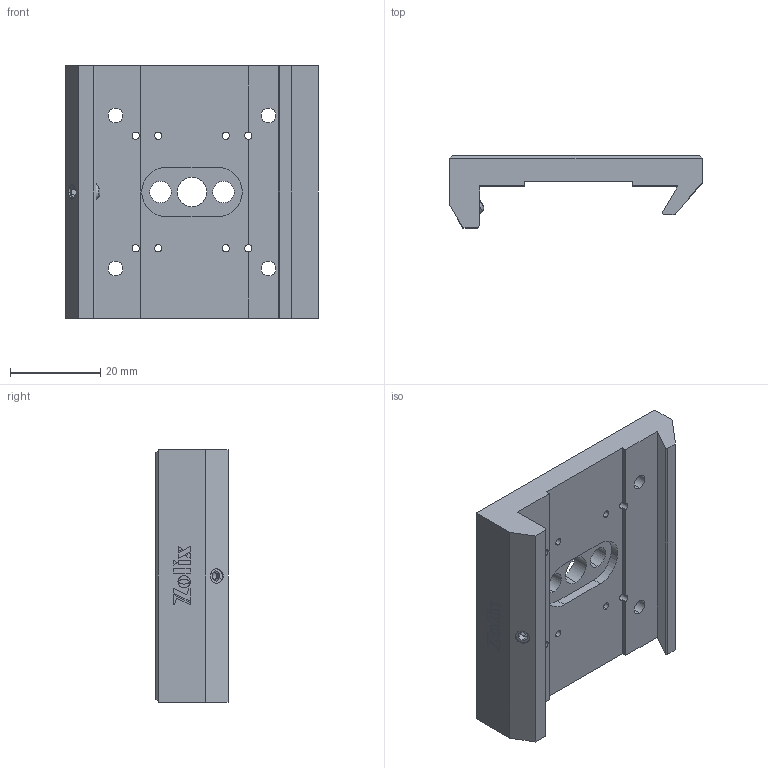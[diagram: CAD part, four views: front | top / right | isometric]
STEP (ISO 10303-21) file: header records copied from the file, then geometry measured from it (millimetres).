
FILE_DESCRIPTION (( 'STEP AP203' ), '1' );
FILE_NAME ('RACA-M3.step', '2019-05-09T09:10:43', ( '' ), ( '' ), 'SwSTEP 2.0', 'SolidWorks 2016', '' );
FILE_SCHEMA (( 'CONFIG_CONTROL_DESIGN' ));
Length unit declared in the file: millimetre
Products named in the file (1): RACA-M3
Bounding box: 56 x 16 x 56 mm (x, y, z)
Surface area: 10289.5 mm2 (no closed solid volume)
Topology: 0 solids, 5 shells, 104 faces, 531 edges, 425 vertices
Faces by surface type: plane 62, cylinder 36, cone 6
Entity records: 5360 total; most frequent: CARTESIAN_POINT 1065, DIRECTION 823, ORIENTED_EDGE 774, EDGE_CURVE 529, VECTOR 441, LINE 441, VERTEX_POINT 425, AXIS2_PLACEMENT_3D 191
